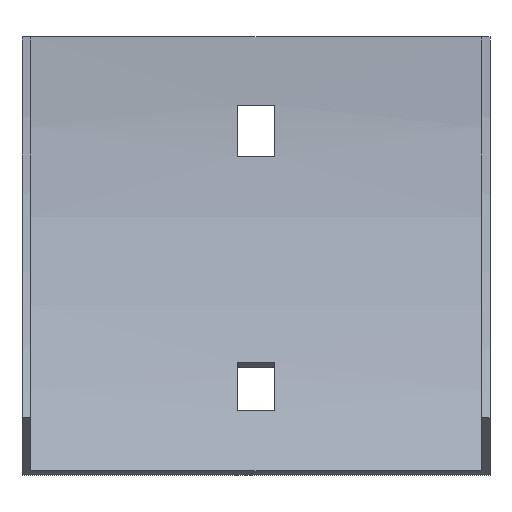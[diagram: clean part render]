
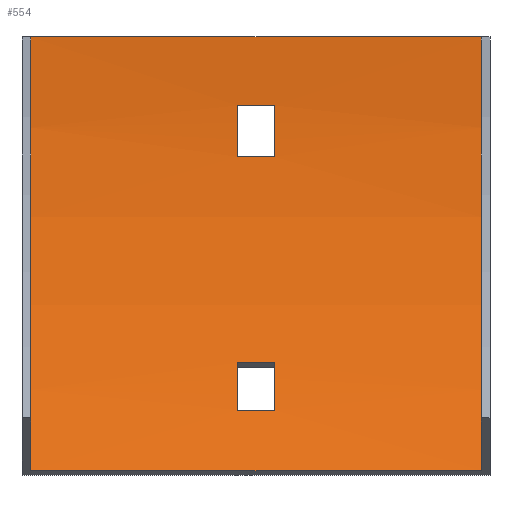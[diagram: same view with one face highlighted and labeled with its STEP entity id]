
A CAD part, front view. The second image highlights one B-rep face of the part: STEP entity #554.
In plain terms, the highlighted cylindrical face has radius 152 mm (diameter 304 mm), a partial arc.
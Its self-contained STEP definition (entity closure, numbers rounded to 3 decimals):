
#1 = DIRECTION ( 'NONE',  ( 1., 0., 0. ) ) ;
#3 = AXIS2_PLACEMENT_3D ( 'NONE', #330, #191, #372 ) ;
#8 = DIRECTION ( 'NONE',  ( -1., 0., 0. ) ) ;
#13 = AXIS2_PLACEMENT_3D ( 'NONE', #80, #36, #545 ) ;
#14 = CARTESIAN_POINT ( 'NONE',  ( 41., -12.626, -57.085 ) ) ;
#23 = AXIS2_PLACEMENT_3D ( 'NONE', #100, #233, #91 ) ;
#24 = CARTESIAN_POINT ( 'NONE',  ( -39.5, -21.864, -76. ) ) ;
#30 = VECTOR ( 'NONE', #48, 1000. ) ;
#33 = EDGE_CURVE ( 'NONE', #342, #242, #461, .T. ) ;
#36 = DIRECTION ( 'NONE',  ( 1., 0., 0. ) ) ;
#39 = CARTESIAN_POINT ( 'NONE',  ( 41., -1.974, -12. ) ) ;
#43 = VECTOR ( 'NONE', #462, 1000. ) ;
#48 = DIRECTION ( 'NONE',  ( -1., 0., 0. ) ) ;
#53 = EDGE_CURVE ( 'NONE', #134, #319, #107, .T. ) ;
#68 = EDGE_LOOP ( 'NONE', ( #265, #596, #209, #258 ) ) ;
#72 = CIRCLE ( 'NONE', #445, 152. ) ;
#80 = CARTESIAN_POINT ( 'NONE',  ( 3.25, -153.5, 0. ) ) ;
#86 = LINE ( 'NONE', #39, #43 ) ;
#87 = EDGE_CURVE ( 'NONE', #546, #470, #72, .T. ) ;
#91 = DIRECTION ( 'NONE',  ( 0., 0., 1. ) ) ;
#97 = FACE_BOUND ( 'NONE', #219, .T. ) ;
#100 = CARTESIAN_POINT ( 'NONE',  ( 41., -153.5, 0. ) ) ;
#102 = CARTESIAN_POINT ( 'NONE',  ( 3.25, -1.974, -12. ) ) ;
#104 = VECTOR ( 'NONE', #194, 1000. ) ;
#107 = LINE ( 'NONE', #376, #395 ) ;
#111 = CIRCLE ( 'NONE', #3, 152. ) ;
#113 = CARTESIAN_POINT ( 'NONE',  ( 3.25, -153.5, 0. ) ) ;
#114 = VERTEX_POINT ( 'NONE', #286 ) ;
#124 = ORIENTED_EDGE ( 'NONE', *, *, #464, .F. ) ;
#134 = VERTEX_POINT ( 'NONE', #513 ) ;
#138 = DIRECTION ( 'NONE',  ( 0., 0., 1. ) ) ;
#149 = CARTESIAN_POINT ( 'NONE',  ( 3.25, -12.626, -57.085 ) ) ;
#154 = CARTESIAN_POINT ( 'NONE',  ( 3.25, -16.275, -65.37 ) ) ;
#156 = VERTEX_POINT ( 'NONE', #316 ) ;
#158 = CIRCLE ( 'NONE', #509, 152. ) ;
#162 = ORIENTED_EDGE ( 'NONE', *, *, #53, .F. ) ;
#182 = EDGE_CURVE ( 'NONE', #262, #546, #86, .T. ) ;
#189 = FACE_OUTER_BOUND ( 'NONE', #311, .T. ) ;
#191 = DIRECTION ( 'NONE',  ( 1., 0., 0. ) ) ;
#192 = DIRECTION ( 'NONE',  ( -1., 0., 0. ) ) ;
#194 = DIRECTION ( 'NONE',  ( 1., 0., 0. ) ) ;
#199 = CIRCLE ( 'NONE', #271, 152. ) ;
#202 = DIRECTION ( 'NONE',  ( -1., 0., 0. ) ) ;
#206 = ORIENTED_EDGE ( 'NONE', *, *, #394, .T. ) ;
#209 = ORIENTED_EDGE ( 'NONE', *, *, #404, .T. ) ;
#210 = CIRCLE ( 'NONE', #13, 152. ) ;
#219 = EDGE_LOOP ( 'NONE', ( #433, #529, #124, #494 ) ) ;
#221 = CARTESIAN_POINT ( 'NONE',  ( 39.5, -1.5, 0. ) ) ;
#233 = DIRECTION ( 'NONE',  ( -1., 0., 0. ) ) ;
#237 = CARTESIAN_POINT ( 'NONE',  ( -3.25, -153.5, 0. ) ) ;
#242 = VERTEX_POINT ( 'NONE', #266 ) ;
#245 = VERTEX_POINT ( 'NONE', #221 ) ;
#257 = VECTOR ( 'NONE', #422, 1000. ) ;
#258 = ORIENTED_EDGE ( 'NONE', *, *, #375, .T. ) ;
#262 = VERTEX_POINT ( 'NONE', #102 ) ;
#265 = ORIENTED_EDGE ( 'NONE', *, *, #33, .T. ) ;
#266 = CARTESIAN_POINT ( 'NONE',  ( -3.25, -16.275, -65.37 ) ) ;
#269 = VERTEX_POINT ( 'NONE', #149 ) ;
#271 = AXIS2_PLACEMENT_3D ( 'NONE', #113, #202, #341 ) ;
#274 = CARTESIAN_POINT ( 'NONE',  ( -3.25, -1.974, -12. ) ) ;
#284 = CYLINDRICAL_SURFACE ( 'NONE', #23, 152. ) ;
#286 = CARTESIAN_POINT ( 'NONE',  ( -39.5, -1.5, 0. ) ) ;
#293 = ORIENTED_EDGE ( 'NONE', *, *, #306, .T. ) ;
#306 = EDGE_CURVE ( 'NONE', #245, #114, #437, .T. ) ;
#310 = CIRCLE ( 'NONE', #368, 152. ) ;
#311 = EDGE_LOOP ( 'NONE', ( #409, #162, #206, #293 ) ) ;
#316 = CARTESIAN_POINT ( 'NONE',  ( -3.25, -12.626, -57.085 ) ) ;
#319 = VERTEX_POINT ( 'NONE', #24 ) ;
#328 = CARTESIAN_POINT ( 'NONE',  ( -39.5, -153.5, 0. ) ) ;
#330 = CARTESIAN_POINT ( 'NONE',  ( 39.5, -153.5, 0. ) ) ;
#331 = DIRECTION ( 'NONE',  ( 0., 0., 1. ) ) ;
#341 = DIRECTION ( 'NONE',  ( 0., 0., 1. ) ) ;
#342 = VERTEX_POINT ( 'NONE', #154 ) ;
#346 = DIRECTION ( 'NONE',  ( 1., 0., 0. ) ) ;
#368 = AXIS2_PLACEMENT_3D ( 'NONE', #328, #1, #138 ) ;
#372 = DIRECTION ( 'NONE',  ( 0., 0., 1. ) ) ;
#375 = EDGE_CURVE ( 'NONE', #269, #342, #199, .T. ) ;
#376 = CARTESIAN_POINT ( 'NONE',  ( 39.5, -21.864, -76. ) ) ;
#392 = DIRECTION ( 'NONE',  ( 0., 0., -1. ) ) ;
#394 = EDGE_CURVE ( 'NONE', #134, #245, #111, .T. ) ;
#395 = VECTOR ( 'NONE', #192, 1000. ) ;
#399 = VERTEX_POINT ( 'NONE', #570 ) ;
#404 = EDGE_CURVE ( 'NONE', #156, #269, #516, .T. ) ;
#407 = CARTESIAN_POINT ( 'NONE',  ( 41., -2.958, -21. ) ) ;
#409 = ORIENTED_EDGE ( 'NONE', *, *, #547, .F. ) ;
#418 = EDGE_CURVE ( 'NONE', #242, #156, #158, .T. ) ;
#422 = DIRECTION ( 'NONE',  ( -1., 0., 0. ) ) ;
#433 = ORIENTED_EDGE ( 'NONE', *, *, #87, .F. ) ;
#437 = LINE ( 'NONE', #480, #257 ) ;
#445 = AXIS2_PLACEMENT_3D ( 'NONE', #237, #8, #331 ) ;
#458 = CARTESIAN_POINT ( 'NONE',  ( 41., -16.275, -65.37 ) ) ;
#461 = LINE ( 'NONE', #458, #30 ) ;
#462 = DIRECTION ( 'NONE',  ( -1., 0., 0. ) ) ;
#463 = FACE_BOUND ( 'NONE', #68, .T. ) ;
#464 = EDGE_CURVE ( 'NONE', #399, #262, #210, .T. ) ;
#470 = VERTEX_POINT ( 'NONE', #492 ) ;
#473 = VECTOR ( 'NONE', #346, 1000. ) ;
#480 = CARTESIAN_POINT ( 'NONE',  ( 39.5, -1.5, 0. ) ) ;
#492 = CARTESIAN_POINT ( 'NONE',  ( -3.25, -2.958, -21. ) ) ;
#494 = ORIENTED_EDGE ( 'NONE', *, *, #501, .F. ) ;
#501 = EDGE_CURVE ( 'NONE', #470, #399, #502, .T. ) ;
#502 = LINE ( 'NONE', #407, #473 ) ;
#509 = AXIS2_PLACEMENT_3D ( 'NONE', #551, #538, #392 ) ;
#513 = CARTESIAN_POINT ( 'NONE',  ( 39.5, -21.864, -76. ) ) ;
#516 = LINE ( 'NONE', #14, #104 ) ;
#529 = ORIENTED_EDGE ( 'NONE', *, *, #182, .F. ) ;
#538 = DIRECTION ( 'NONE',  ( 1., 0., 0. ) ) ;
#545 = DIRECTION ( 'NONE',  ( 0., 0., -1. ) ) ;
#546 = VERTEX_POINT ( 'NONE', #274 ) ;
#547 = EDGE_CURVE ( 'NONE', #319, #114, #310, .T. ) ;
#551 = CARTESIAN_POINT ( 'NONE',  ( -3.25, -153.5, 0. ) ) ;
#554 = ADVANCED_FACE ( 'NONE', ( #97, #189, #463 ), #284, .F. ) ;
#570 = CARTESIAN_POINT ( 'NONE',  ( 3.25, -2.958, -21. ) ) ;
#596 = ORIENTED_EDGE ( 'NONE', *, *, #418, .T. ) ;
